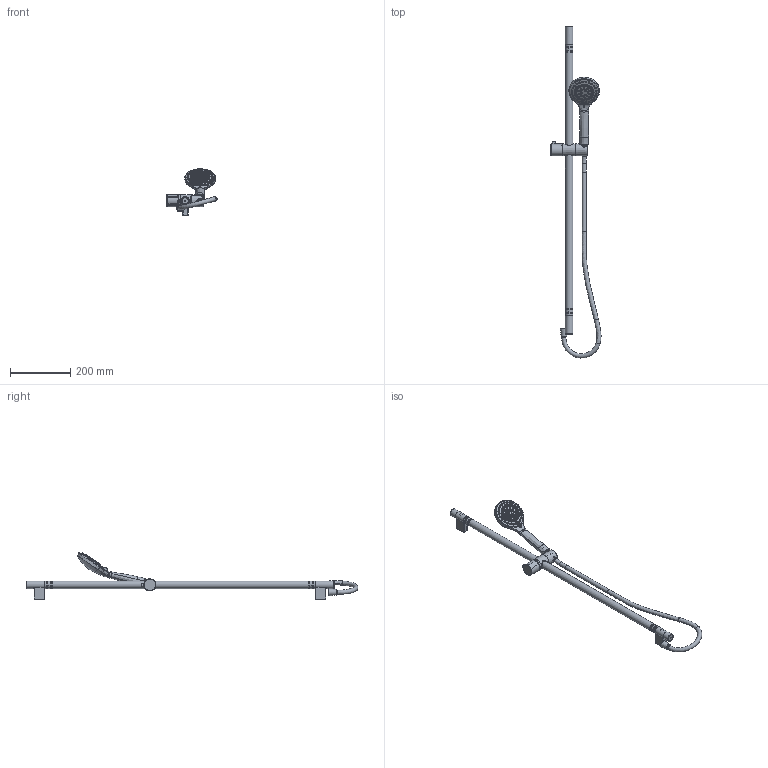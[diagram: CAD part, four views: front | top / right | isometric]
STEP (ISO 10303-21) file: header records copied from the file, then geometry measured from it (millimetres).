
FILE_DESCRIPTION(/* description */ (''),/* implementation_level */ '2;1');
FILE_NAME(/* name */ 'c:\worker\convert-fusion-r05\tmp\job-1\78\output\files\74f13ccb-8131-47ab-8582-c0619ca5c98b\edd252bf-70fd-447b-88b4-70fef6786de8.stp',/* time_stamp */ '2020-07-02T09:05:03+00:00',/* author */ (''),/* organization */ (''),/* preprocessor_version */ 'ST-DEVELOPER v18.1',/* originating_system */ 'Autodesk Translation Framework v9.3.0.1241',/* authorisation */ '');
FILE_SCHEMA (('AUTOMOTIVE_DESIGN { 1 0 10303 214 3 1 1 }'));
Length unit declared in the file: millimetre
Products named in the file (1): !Yosemite-S
Bounding box: 166.43 x 1102.86 x 153.63 mm (x, y, z)
Volume: 428065.1 mm3; surface area: 396107.2 mm2
Topology: 20 solids, 20 shells, 2610 faces, 6897 edges, 4561 vertices
Faces by surface type: plane 1000, cylinder 563, bspline 506, cone 232, torus 218, sphere 91
Full cylindrical faces by diameter (mm): 1.2 x8, 1.55 x2, 2 x6, 2.5 x3, 3 x4, 3.2 x1, 3.5 x8, 4 x2, 5 x42, 6 x7, 7.2 x1, 8 x1, 9.9 x1, 11 x1, 11.5 x1, 12 x1, 13.9 x2, 14 x6, 14.6 x1, 15.8 x2, 16.9 x2, 18 x1, 19.8 x4, 20.4 x7, 20.9 x2, 23.4 x6, 24 x1, 25 x5, 25.3 x1, 27.3 x1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
Entity records: 168470 total; most frequent: CARTESIAN_POINT 106112, ORIENTED_EDGE 13750, DIRECTION 12062, EDGE_CURVE 6875, AXIS2_PLACEMENT_3D 4915, VERTEX_POINT 4561, EDGE_LOOP 3076, FACE_OUTER_BOUND 2610
